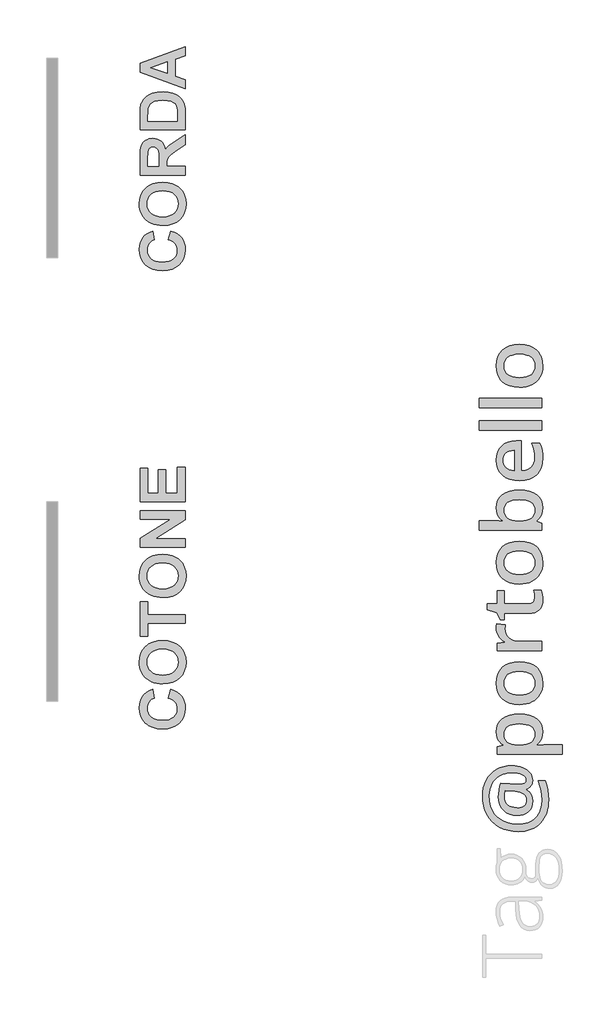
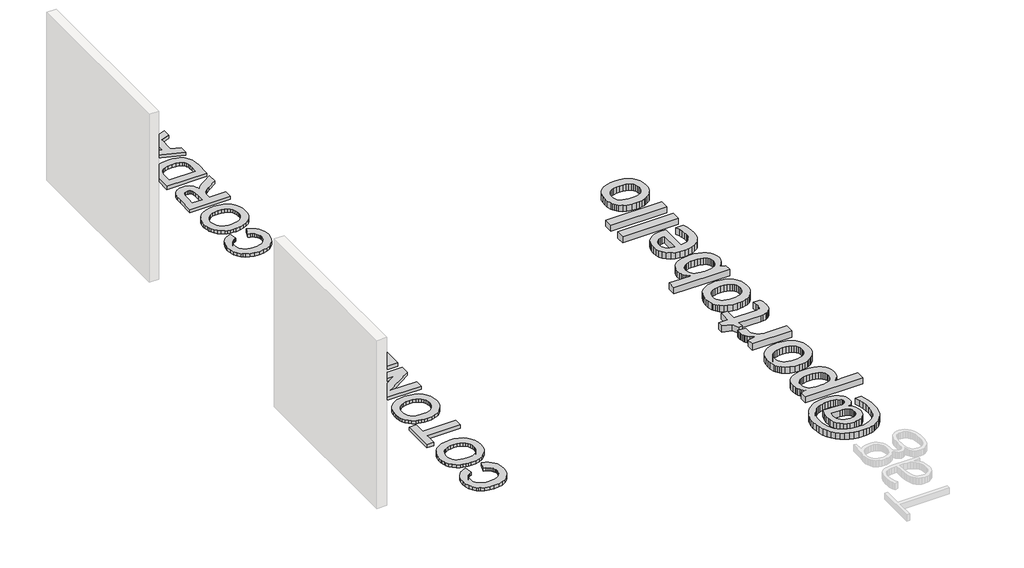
# One storey, part 6 of 9: 3 proxies.
"""IFC4 building model written with IfcOpenShell, lengths in millimetres."""

import ifcopenshell
import ifcopenshell.guid

model = None  # the IFC model being written
_history = None  # IfcOwnerHistory: only IFC2X3 demands one
_inside = {}  # id of a spatial element -> (the spatial element, [elements in it])
_under = {}  # id of a project, library or spatial element -> (it, [spatial elements below it])
_declared = {}  # id of a project -> (the project, [libraries it declares])
_typed = {}  # id of a type object -> (the type object, [elements of that type])
_made_of = {}  # id of a material, layer set ... -> (it, [elements and type objects made of it])


def new_model(schema):
    """Start an empty IFC model of exactly this schema.

    Asked for "IFC4X3", IfcOpenShell would pick the latest addendum, in which some entities
    have other attributes; the version numbers below select the first issue.
    IFC2X3 requires an IfcOwnerHistory on every rooted entity: one is made here for all.
    """
    global model, _history
    if schema == "IFC4X3":
        model = ifcopenshell.file(schema_version=(4, 3, 0, 0))
    else:
        model = ifcopenshell.file(schema=schema)
    _inside.clear()
    _under.clear()
    _declared.clear()
    _typed.clear()
    _made_of.clear()
    _history = None
    if model.schema == "IFC2X3":
        org = make("IfcOrganization", Name="unknown")
        user = make(
            "IfcPersonAndOrganization",
            ThePerson=make("IfcPerson", FamilyName="unknown"),
            TheOrganization=org,
        )
        app = make(
            "IfcApplication",
            ApplicationDeveloper=org,
            Version="unknown",
            ApplicationFullName="unknown",
            ApplicationIdentifier="unknown",
        )
        _history = make(
            "IfcOwnerHistory",
            OwningUser=user,
            OwningApplication=app,
            ChangeAction="ADDED",
            CreationDate=0,
        )
    return model


def make(cls, **values):
    """One entity of the class cls with the attributes given. An attribute that is None is left unset."""
    return model.create_entity(
        cls, **{name: value for name, value in values.items() if value is not None}
    )


def rooted(cls, **values):
    """An entity with a GlobalId (a new one), such as an element, a storey or a relation."""
    return make(cls, GlobalId=ifcopenshell.guid.new(), OwnerHistory=_history, **values)


def si_unit(unit_type, name, prefix=None):
    """IfcSIUnit, for example si_unit("LENGTHUNIT", "METRE", prefix="MILLI")."""
    return make("IfcSIUnit", UnitType=unit_type, Prefix=prefix, Name=name)


def assignment(units):
    """IfcUnitAssignment: the units of a project."""
    return None if units is None else make("IfcUnitAssignment", Units=units)


def point(xyz):
    """IfcCartesianPoint."""
    return None if xyz is None else make("IfcCartesianPoint", Coordinates=xyz)


def direction(xyz):
    """IfcDirection."""
    return None if xyz is None else make("IfcDirection", DirectionRatios=xyz)


def frame(location, z_axis=None, x_axis=None):
    """IfcAxis2Placement3D, a coordinate frame: its origin and axes. An axis left out is left unset."""
    return make(
        "IfcAxis2Placement3D",
        Location=point(location),
        Axis=direction(z_axis),
        RefDirection=direction(x_axis),
    )


def origin():
    """The frame at (0, 0, 0) with its axes left unset."""
    return frame((0.0, 0.0, 0.0))


def origin_with_axes():
    """The frame at (0, 0, 0) with the z axis (0, 0, 1) and the x axis (1, 0, 0) written out."""
    return frame((0.0, 0.0, 0.0), z_axis=(0.0, 0.0, 1.0), x_axis=(1.0, 0.0, 0.0))


def place(relative_to, where):
    """IfcLocalPlacement: puts the frame where relative to a parent placement (None: the world)."""
    return make(
        "IfcLocalPlacement", PlacementRelTo=relative_to, RelativePlacement=where
    )


def context(
    kind, dimensions, precision=None, world=None, true_north=None, identifier=None
):
    """IfcGeometricRepresentationContext, for example the 3D "Model" context."""
    return make(
        "IfcGeometricRepresentationContext",
        ContextIdentifier=identifier,
        ContextType=kind,
        CoordinateSpaceDimension=dimensions,
        Precision=precision,
        WorldCoordinateSystem=world,
        TrueNorth=true_north,
    )


def project(units=None, contexts=None):
    """IfcProject with its units and contexts."""
    return rooted(
        "IfcProject",
        Name="project",
        RepresentationContexts=contexts,
        UnitsInContext=assignment(units),
    )


def spatial(cls, under=None, at=None, **own):
    """A site, building, storey or space (cls), placed at a placement, below another one or the project."""
    s = rooted(cls, ObjectPlacement=at, **own)
    if under is not None:
        _under.setdefault(under.id(), (under, []))[1].append(s)
    return s


def polyline(points):
    """IfcPolyline through the points."""
    return make("IfcPolyline", Points=[point(p) for p in points])


def outline(outer, holes=None, kind="AREA"):
    """IfcArbitraryClosedProfileDef: a profile drawn as a closed curve; with holes, ...WithVoids."""
    if holes is None:
        return make("IfcArbitraryClosedProfileDef", ProfileType=kind, OuterCurve=outer)
    return make(
        "IfcArbitraryProfileDefWithVoids",
        ProfileType=kind,
        OuterCurve=outer,
        InnerCurves=holes,
    )


def extrude(swept, where, along, depth):
    """IfcExtrudedAreaSolid: the profile swept, set in the frame where, extruded along a direction by depth."""
    return make(
        "IfcExtrudedAreaSolid",
        SweptArea=swept,
        Position=where,
        ExtrudedDirection=direction(along),
        Depth=depth,
    )


def shape(context_of_items, identifier, shape_type, items):
    """IfcShapeRepresentation: the items that make up one representation, for example the "Body"."""
    return make(
        "IfcShapeRepresentation",
        ContextOfItems=context_of_items,
        RepresentationIdentifier=identifier,
        RepresentationType=shape_type,
        Items=items,
    )


def made_of(thing, what):
    """Note that an element or type object is made of a material, layer set ...; save() writes the relation."""
    if what is not None:
        _made_of.setdefault(what.id(), (what, []))[1].append(thing)
    return thing


def element(
    cls,
    number,
    at=None,
    inside=None,
    cuts=None,
    type_object=None,
    material=None,
    context=None,
    identifier="Body",
    shape_type=None,
    held_by="IfcProductDefinitionShape",
    body=None,
    shapes=None,
    **own,
):
    """One element of the class cls, such as IfcWall. Its Tag is "e" and its number.

    at: its placement. inside: the storey or other place that contains it. cuts: it is an
    opening in that element (IfcRelVoidsElement). A single representation is given by context,
    identifier, shape_type and body (its items); several are given by shapes. held_by: the class
    of the entity that holds the representations. save() writes the other relations.
    """
    e = rooted(cls, Tag="e%d" % number, ObjectPlacement=at, **own)
    if body is not None:
        shapes = [shape(context, identifier, shape_type, body)]
    if shapes is not None:
        e.Representation = make(held_by, Representations=shapes)
    if inside is not None:
        _inside.setdefault(inside.id(), (inside, []))[1].append(e)
    if cuts is not None:
        rooted(
            "IfcRelVoidsElement", RelatingBuildingElement=cuts, RelatedOpeningElement=e
        )
    if type_object is not None:
        _typed.setdefault(type_object.id(), (type_object, []))[1].append(e)
    return made_of(e, material)


def aggregate(whole, parts):
    """IfcRelAggregates: a whole, such as a stair, and the parts it consists of."""
    return rooted("IfcRelAggregates", RelatingObject=whole, RelatedObjects=parts)


def save(model, path):
    """Write the relations noted so far, then the file.

    IfcRelAggregates (storeys below a building ...), IfcRelContainedInSpatialStructure (elements
    in a storey), IfcRelDefinesByType, IfcRelAssociatesMaterial and IfcRelDeclares: one each for
    every whole, place, type object, material and project.
    """
    for whole, parts in _under.values():
        aggregate(whole, parts)
    for where, things in _inside.values():
        rooted(
            "IfcRelContainedInSpatialStructure",
            RelatedElements=things,
            RelatingStructure=where,
        )
    for kind, things in _typed.values():
        rooted("IfcRelDefinesByType", RelatedObjects=things, RelatingType=kind)
    for what, things in _made_of.values():
        rooted("IfcRelAssociatesMaterial", RelatedObjects=things, RelatingMaterial=what)
    for by, libraries in _declared.values():
        rooted("IfcRelDeclares", RelatingContext=by, RelatedDefinitions=libraries)
    model.write(path)


model = new_model("IFC4")

# Units and contexts
model_context = context("Model", 3, world=origin())
ifc_project = project(units=[si_unit("LENGTHUNIT", "METRE", prefix="MILLI")], contexts=[model_context])

# Site, building, storey
site = spatial("IfcSite", under=ifc_project)
building = spatial("IfcBuilding", under=site)
storey = spatial("IfcBuildingStorey", under=building, Name="PORTOBELLO - SHOWROOM", Elevation=0.0)

# Proxies
placement = place(None, origin())
element("IfcBuildingElementProxy", 1, Name="600mm Arial", ObjectType="600mm Arial", at=placement, inside=storey, context=model_context, shape_type="SweptSolid", body=[
    extrude(outline(polyline([(9479.5828539, -8554.965328), (9518.4498787, -8438.3642537), (9564.552281, -8454.4671202), (9604.3255071, -8475.1436942), (9637.7695571, -8500.3939756), (9664.8844309, -8530.2179646), (9685.840931, -8564.4923038), (9700.8098596, -8603.093636), (9709.7912167, -8646.0219612), (9712.7850025, -8693.2772794), (9707.6704208, -8751.6632177), (9692.3266759, -8804.6024587), (9666.7537678, -8852.0950024), (9630.9516964, -8894.1408488), (9586.2773916, -8928.5480343), (9534.0877831, -8953.1245953), (9474.3828711, -8967.870532), (9407.1626554, -8972.7858442), (9336.2796781, -8967.8278314), (9273.7849943, -8952.953793), (9219.6786039, -8928.163729), (9195.7710187, -8912.0501874), (9173.9605069, -8893.4576394), (9137.6270504, -8850.6669049), (9111.6745814, -8801.6229065), (9096.1031001, -8746.3256441), (9090.9126063, -8684.7751177), (9095.1921542, -8630.9533979), (9108.0307979, -8582.4455291), (9129.4285373, -8539.2515114), (9159.3853726, -8501.3713447), (9181.7889481, -8481.6626507), (9208.6144069, -8464.5919042), (9239.8617488, -8450.1591053), (9275.5309739, -8438.3642537), (9294.9644863, -8554.965328), (9273.6094474, -8562.3145738), (9254.6361525, -8572.8236631), (9238.0446015, -8586.492596), (9223.8347945, -8603.3213725), (9212.4432263, -8622.7216733), (9204.3063919, -8644.1051792), (9199.4242913, -8667.4718903), (9197.7969244, -8692.8218065), (9200.752754, -8727.470962), (9209.620243, -8758.6945813), (9224.3993912, -8786.4926646), (9245.0901987, -8810.8652117), (9272.3948529, -8830.6925184), (9307.0155413, -8844.8548804), (9348.952264, -8853.3522975), (9398.2050208, -8856.1847699), (9450.3376951, -8853.4376987), (9494.3857247, -8845.1964851), (9530.3491094, -8831.461129), (9558.2278493, -8812.2316306), (9579.0847146, -8788.599227), (9593.9824756, -8761.6551555), (9602.9211322, -8731.3994161), (9605.9006844, -8697.8320089), (9603.9981359, -8672.8426755), (9598.2904906, -8649.6467668), (9588.7777483, -8628.2442828), (9575.4599091, -8608.6352235), (9558.0523024, -8591.2465949), (9536.2702577, -8576.5054028), (9510.1137748, -8564.4116472), (9479.5828539, -8554.965328)])), origin_with_axes(), (0.0, 0.0, 1.0), 50.0),
    extrude(outline(polyline([(9410.5027904, -8360.6302042), (9365.6956393, -8358.9126917), (9324.64614, -8353.7601539), (9287.3542925, -8345.1725911), (9253.8200968, -8333.1500031), (9209.5822869, -8308.9150468), (9170.0889868, -8277.2027429), (9137.7693857, -8240.0627197), (9115.0526725, -8199.5446055), (9104.4913935, -8170.3753589), (9096.9476228, -8139.0426158), (9092.4213604, -8105.5463762), (9090.9126063, -8069.8866401), (9096.1458007, -8006.784659), (9111.8453838, -7950.3249917), (9138.0113557, -7900.5076382), (9174.6437163, -7857.3325984), (9196.5977495, -7838.6510909), (9220.5942943, -7822.460451), (9274.7149182, -7797.5517742), (9337.0055881, -7782.6065682), (9407.466304, -7777.6248328), (9477.4478245, -7782.5686121), (9539.3636781, -7797.3999499), (9593.213865, -7822.1188463), (9617.1143334, -7838.1861289), (9638.9983851, -7856.7253012), (9675.531111, -7899.6156703), (9701.6259153, -7949.1863093), (9717.2827978, -8005.4372182), (9722.5017586, -8068.3683969), (9717.3065204, -8131.9638071), (9701.7208055, -8188.689167), (9675.744614, -8238.5444765), (9639.3779459, -8281.5297359), (9593.9018189, -8316.1361908), (9540.5972507, -8340.8550871), (9479.4642411, -8355.6864249), (9410.5027904, -8360.6302042)]), holes=[polyline([(9406.2517095, -8244.0291299), (9454.6741771, -8240.930965), (9496.8528698, -8231.6364702), (9532.7877874, -8216.1456455), (9562.4789301, -8194.4584909), (9585.7270284, -8167.9983595), (9602.332813, -8138.188604), (9612.2962837, -8105.0292246), (9615.6174406, -8068.5202213), (9612.3200062, -8032.049174), (9602.4277032, -7999.0036628), (9585.9405314, -7969.3836878), (9562.8584909, -7943.1892488), (9533.1815818, -7921.7677868), (9496.9098039, -7906.4667425), (9454.0431573, -7897.286116), (9404.5816421, -7894.2259071), (9355.8080807, -7897.2054593), (9313.6388771, -7906.1441159), (9278.0740312, -7921.0418768), (9249.113543, -7941.8987422), (9226.6625224, -7967.6898977), (9210.626079, -7997.3905295), (9201.004213, -8031.0006373), (9197.7969244, -8068.5202213), (9201.0421691, -8106.0777613), (9210.7779034, -8139.8017374), (9227.0041271, -8169.6921495), (9249.7208403, -8195.7489976), (9278.9754881, -8216.8715555), (9314.8155155, -8231.9590969), (9357.2409227, -8241.0116217), (9406.2517095, -8244.0291299)])]), origin_with_axes(), (0.0, 0.0, 1.0), 50.0),
    extrude(outline(polyline([(9712.7850025, -7544.4226843), (9207.5136806, -7544.4226843), (9207.5136806, -7719.3242957), (9100.6293625, -7719.3242957), (9100.6293625, -7252.9199986), (9207.5136806, -7252.9199986), (9207.5136806, -7427.82161), (9712.7850025, -7427.82161), (9712.7850025, -7544.4226843)])), origin_with_axes(), (0.0, 0.0, 1.0), 50.0),
    extrude(outline(polyline([(9410.5027904, -7194.6194614), (9365.6956393, -7192.9019488), (9324.64614, -7187.7494111), (9287.3542925, -7179.1618483), (9253.8200968, -7167.1392603), (9209.5822869, -7142.904304), (9170.0889868, -7111.1920001), (9137.7693857, -7074.0519769), (9115.0526725, -7033.5338627), (9104.4913935, -7004.3646161), (9096.9476228, -6973.031873), (9092.4213604, -6939.5356334), (9090.9126063, -6903.8758973), (9096.1458007, -6840.7739162), (9111.8453838, -6784.3142489), (9138.0113557, -6734.4968953), (9174.6437163, -6691.3218556), (9196.5977495, -6672.6403481), (9220.5942943, -6656.4497082), (9274.7149182, -6631.5410314), (9337.0055881, -6616.5958254), (9407.466304, -6611.61409), (9477.4478245, -6616.5578693), (9539.3636781, -6631.3892071), (9593.213865, -6656.1081035), (9617.1143334, -6672.1753861), (9638.9983851, -6690.7145584), (9675.531111, -6733.6049275), (9701.6259153, -6783.1755665), (9717.2827978, -6839.4264754), (9722.5017586, -6902.3576541), (9717.3065204, -6965.9530643), (9701.7208055, -7022.6784241), (9675.744614, -7072.5337337), (9639.3779459, -7115.5189931), (9593.9018189, -7150.125448), (9540.5972507, -7174.8443443), (9479.4642411, -7189.6756821), (9410.5027904, -7194.6194614)]), holes=[polyline([(9406.2517095, -7078.0183871), (9454.6741771, -7074.9202222), (9496.8528698, -7065.6257274), (9532.7877874, -7050.1349027), (9562.4789301, -7028.4477481), (9585.7270284, -7001.9876167), (9602.332813, -6972.1778612), (9612.2962837, -6939.0184818), (9615.6174406, -6902.5094784), (9612.3200062, -6866.0384312), (9602.4277032, -6832.99292), (9585.9405314, -6803.372945), (9562.8584909, -6777.178506), (9533.1815818, -6755.757044), (9496.9098039, -6740.4559997), (9454.0431573, -6731.2753731), (9404.5816421, -6728.2151643), (9355.8080807, -6731.1947165), (9313.6388771, -6740.1333731), (9278.0740312, -6755.031134), (9249.113543, -6775.8879993), (9226.6625224, -6801.6791549), (9210.626079, -6831.3797867), (9201.004213, -6864.9898945), (9197.7969244, -6902.5094784), (9201.0421691, -6940.0670185), (9210.7779034, -6973.7909946), (9227.0041271, -7003.6814067), (9249.7208403, -7029.7382548), (9278.9754881, -7050.8608127), (9314.8155155, -7065.9483541), (9357.2409227, -7075.0008789), (9406.2517095, -7078.0183871)])]), origin_with_axes(), (0.0, 0.0, 1.0), 50.0),
    extrude(outline(polyline([(9712.7850025, -6514.4465281), (9100.6293625, -6514.4465281), (9100.6293625, -6392.2279542), (9512.6805547, -6135.4930367), (9100.6293625, -6135.4930367), (9100.6293625, -6018.8919624), (9712.7850025, -6018.8919624), (9712.7850025, -6144.9061443), (9306.8067829, -6397.8454538), (9712.7850025, -6397.8454538), (9712.7850025, -6514.4465281)])), origin_with_axes(), (0.0, 0.0, 1.0), 50.0),
    extrude(outline(polyline([(9712.7850025, -5902.2908881), (9100.6293625, -5902.2908881), (9100.6293625, -5445.6033472), (9207.5136806, -5445.6033472), (9207.5136806, -5785.6898139), (9343.5482672, -5785.6898139), (9343.5482672, -5465.0368596), (9450.4325853, -5465.0368596), (9450.4325853, -5785.6898139), (9605.9006844, -5785.6898139), (9605.9006844, -5435.886591), (9712.7850025, -5435.886591), (9712.7850025, -5902.2908881)])), origin_with_axes(), (0.0, 0.0, 1.0), 50.0),
])
element("IfcBuildingElementProxy", 2, Name="600mm Arial", ObjectType="600mm Arial", at=placement, inside=storey, context=model_context, shape_type="SweptSolid", body=[
    extrude(outline(polyline([(9479.5828539, -2354.965328), (9518.4498787, -2238.3642537), (9564.552281, -2254.4671202), (9604.3255071, -2275.1436942), (9637.7695571, -2300.3939756), (9664.8844309, -2330.2179646), (9685.840931, -2364.4923038), (9700.8098596, -2403.093636), (9709.7912167, -2446.0219612), (9712.7850025, -2493.2772794), (9707.6704208, -2551.6632177), (9692.3266759, -2604.6024587), (9666.7537678, -2652.0950024), (9630.9516964, -2694.1408488), (9586.2773916, -2728.5480343), (9534.0877831, -2753.1245953), (9474.3828711, -2767.870532), (9407.1626554, -2772.7858442), (9336.2796781, -2767.8278314), (9273.7849943, -2752.953793), (9219.6786039, -2728.163729), (9195.7710187, -2712.0501874), (9173.9605069, -2693.4576394), (9137.6270504, -2650.6669049), (9111.6745814, -2601.6229065), (9096.1031001, -2546.3256441), (9090.9126063, -2484.7751177), (9095.1921542, -2430.9533979), (9108.0307979, -2382.4455291), (9129.4285373, -2339.2515114), (9159.3853726, -2301.3713447), (9181.7889481, -2281.6626507), (9208.6144069, -2264.5919042), (9239.8617488, -2250.1591053), (9275.5309739, -2238.3642537), (9294.9644863, -2354.965328), (9273.6094474, -2362.3145738), (9254.6361525, -2372.8236631), (9238.0446015, -2386.492596), (9223.8347945, -2403.3213725), (9212.4432263, -2422.7216733), (9204.3063919, -2444.1051792), (9199.4242913, -2467.4718903), (9197.7969244, -2492.8218065), (9200.752754, -2527.470962), (9209.620243, -2558.6945813), (9224.3993912, -2586.4926646), (9245.0901987, -2610.8652117), (9272.3948529, -2630.6925184), (9307.0155413, -2644.8548804), (9348.952264, -2653.3522975), (9398.2050208, -2656.1847699), (9450.3376951, -2653.4376987), (9494.3857247, -2645.1964851), (9530.3491094, -2631.461129), (9558.2278493, -2612.2316306), (9579.0847146, -2588.599227), (9593.9824756, -2561.6551555), (9602.9211322, -2531.3994161), (9605.9006844, -2497.8320089), (9603.9981359, -2472.8426755), (9598.2904906, -2449.6467668), (9588.7777483, -2428.2442828), (9575.4599091, -2408.6352235), (9558.0523024, -2391.2465949), (9536.2702577, -2376.5054028), (9510.1137748, -2364.4116472), (9479.5828539, -2354.965328)])), origin_with_axes(), (0.0, 0.0, 1.0), 50.0),
    extrude(outline(polyline([(9410.5027904, -2160.6302042), (9365.6956393, -2158.9126917), (9324.64614, -2153.7601539), (9287.3542925, -2145.1725911), (9253.8200968, -2133.1500031), (9209.5822869, -2108.9150468), (9170.0889868, -2077.2027429), (9137.7693857, -2040.0627197), (9115.0526725, -1999.5446055), (9104.4913935, -1970.3753589), (9096.9476228, -1939.0426158), (9092.4213604, -1905.5463762), (9090.9126063, -1869.8866401), (9096.1458007, -1806.784659), (9111.8453838, -1750.3249917), (9138.0113557, -1700.5076382), (9174.6437163, -1657.3325984), (9196.5977495, -1638.6510909), (9220.5942943, -1622.460451), (9274.7149182, -1597.5517742), (9337.0055881, -1582.6065682), (9407.466304, -1577.6248328), (9477.4478245, -1582.5686121), (9539.3636781, -1597.3999499), (9593.213865, -1622.1188463), (9617.1143334, -1638.1861289), (9638.9983851, -1656.7253012), (9675.531111, -1699.6156703), (9701.6259153, -1749.1863093), (9717.2827978, -1805.4372182), (9722.5017586, -1868.3683969), (9717.3065204, -1931.9638071), (9701.7208055, -1988.689167), (9675.744614, -2038.5444765), (9639.3779459, -2081.5297359), (9593.9018189, -2116.1361908), (9540.5972507, -2140.8550871), (9479.4642411, -2155.6864249), (9410.5027904, -2160.6302042)]), holes=[polyline([(9406.2517095, -2044.0291299), (9454.6741771, -2040.930965), (9496.8528698, -2031.6364702), (9532.7877874, -2016.1456455), (9562.4789301, -1994.4584909), (9585.7270284, -1967.9983595), (9602.332813, -1938.188604), (9612.2962837, -1905.0292246), (9615.6174406, -1868.5202213), (9612.3200062, -1832.049174), (9602.4277032, -1799.0036628), (9585.9405314, -1769.3836878), (9562.8584909, -1743.1892488), (9533.1815818, -1721.7677868), (9496.9098039, -1706.4667425), (9454.0431573, -1697.286116), (9404.5816421, -1694.2259071), (9355.8080807, -1697.2054593), (9313.6388771, -1706.1441159), (9278.0740312, -1721.0418768), (9249.113543, -1741.8987422), (9226.6625224, -1767.6898977), (9210.626079, -1797.3905295), (9201.004213, -1831.0006373), (9197.7969244, -1868.5202213), (9201.0421691, -1906.0777613), (9210.7779034, -1939.8017374), (9227.0041271, -1969.6921495), (9249.7208403, -1995.7489976), (9278.9754881, -2016.8715555), (9314.8155155, -2031.9590969), (9357.2409227, -2041.0116217), (9406.2517095, -2044.0291299)])]), origin_with_axes(), (0.0, 0.0, 1.0), 50.0),
    extrude(outline(polyline([(9712.7850025, -1480.4572709), (9100.6293625, -1480.4572709), (9100.6293625, -1222.9632319), (9104.7665751, -1139.0802976), (9109.9380908, -1107.1023011), (9117.1782129, -1081.7666185), (9127.0657714, -1060.852819), (9140.1795967, -1042.1404722), (9156.5196886, -1025.6295778), (9176.0860473, -1011.3201361), (9198.0341499, -999.7625101), (9221.5194737, -991.5070629), (9246.5420187, -986.5537947), (9273.1017849, -984.9027052), (9306.2089746, -987.2891937), (9336.2986562, -994.4486591), (9363.3708294, -1006.3811014), (9387.4254944, -1023.0865206), (9407.8838209, -1044.5459387), (9424.1669787, -1070.7403776), (9436.2749679, -1101.6698373), (9444.2077884, -1137.334318), (9468.575591, -1103.5154517), (9495.2207584, -1076.1491188), (9533.8220906, -1047.833884), (9594.0583878, -1011.1683118), (9712.7850025, -936.3189243), (9712.7850025, -1072.5053352), (9572.9548079, -1161.1707355), (9519.2659344, -1204.0041705), (9489.9828195, -1230.7821841), (9475.5784876, -1250.1018283), (9466.5259628, -1270.5601548), (9461.7434968, -1297.7177292), (9460.1493415, -1337.1351171), (9460.1493415, -1363.8561966), (9712.7850025, -1363.8561966), (9712.7850025, -1480.4572709)]), holes=[polyline([(9353.2650234, -1363.8561966), (9353.2650234, -1267.7514049), (9351.5000658, -1191.8961813), (9346.2051928, -1151.0744185), (9336.6023048, -1130.3124434), (9321.9133023, -1114.6365828), (9302.536724, -1104.7869803), (9278.8711088, -1101.5037795), (9252.6624364, -1105.8307725), (9232.0333075, -1118.8117515), (9217.4771513, -1139.6875948), (9209.4873967, -1167.699181), (9207.5136806, -1262.4375539), (9207.5136806, -1363.8561966), (9353.2650234, -1363.8561966)])]), origin_with_axes(), (0.0, 0.0, 1.0), 50.0),
    extrude(outline(polyline([(9100.6293625, -868.3016309), (9100.6293625, -641.6279279), (9103.5519806, -574.0661076), (9112.3198348, -524.723205), (9121.823088, -498.6663569), (9134.3912946, -474.5452688), (9150.0244546, -452.3599407), (9168.722568, -432.1103726), (9190.0918404, -413.9816004), (9213.7384775, -398.1586601), (9267.863846, -373.4302747), (9298.916663, -364.6292089), (9333.3950161, -358.3427333), (9412.6283308, -353.3135529), (9482.9229888, -358.0201066), (9542.8935934, -372.139768), (9574.7007875, -384.9119885), (9603.319671, -400.1513542), (9628.7502438, -417.857865), (9650.9925061, -438.0315209), (9678.852268, -475.9116876), (9699.8799356, -525.178678), (9709.5587358, -573.1172056), (9712.7850025, -634.9476581), (9712.7850025, -868.3016309), (9100.6293625, -868.3016309)]), holes=[polyline([(9207.5136806, -751.7005567), (9605.9006844, -751.7005567), (9605.9006844, -652.4074543), (9604.4583534, -604.4309707), (9600.1313604, -571.9405671), (9590.2438018, -542.3538037), (9575.1562605, -518.2706716), (9551.7942939, -498.8940934), (9517.0834598, -483.4269912), (9469.3347126, -473.2927182), (9406.8590068, -469.9146271), (9345.2562908, -473.2927182), (9299.8228644, -483.4269912), (9266.5733393, -499.6152589), (9241.5223272, -521.1553336), (9223.9866188, -548.6545128), (9213.2830046, -582.7200935), (9208.9560116, -623.9783513), (9207.5136806, -691.8817764), (9207.5136806, -751.7005567)])]), origin_with_axes(), (0.0, 0.0, 1.0), 50.0),
    extrude(outline(polyline([(9712.7850025, 258.8420871), (9712.7850025, 136.3198645), (9576.7504158, 88.3433808), (9576.7504158, -142.8850516), (9712.7850025, -190.2542381), (9712.7850025, -314.4465281), (9100.6293625, -90.9611357), (9100.6293625, 33.2311543), (9712.7850025, 258.8420871)]), holes=[polyline([(9469.8660977, 50.9945992), (9246.3807053, -27.8022205), (9469.8660977, -105.53627), (9469.8660977, 50.9945992)])]), origin_with_axes(), (0.0, 0.0, 1.0), 50.0),
])
element("IfcBuildingElementProxy", 3, Name="80mm OpenSans Bold", ObjectType="80mm OpenSans Bold", at=placement, inside=storey, context=model_context, shape_type="SweptSolid", body=[
    extrude(outline(polyline([(14132.1934036, -9469.9050274), (14170.2990183, -9471.4523873), (14206.7370898, -9476.0944669), (14241.5076182, -9483.8312662), (14274.6106034, -9494.6627853), (14305.0920905, -9508.3035888), (14331.9981248, -9524.4682415), (14355.3287061, -9543.1567432), (14375.0838346, -9564.369094), (14390.8053113, -9587.7146983), (14402.0349376, -9612.8029603), (14408.7727133, -9639.63388), (14411.0186386, -9668.2074574), (14405.3099322, -9708.8294097), (14398.1740493, -9726.9770867), (14388.1838133, -9743.6825641), (14375.7598656, -9758.3599485), (14361.3228478, -9770.4233463), (14344.8727598, -9779.8727576), (14326.4096017, -9786.7081822), (14326.4096017, -9793.4384465), (14363.4260554, -9823.6044526), (14389.8663794, -9860.2603563), (14405.7305738, -9902.6249663), (14411.0186386, -9949.9170913), (14407.46572, -9992.5821596), (14396.8069644, -10030.4398962), (14379.0423717, -10063.4903012), (14354.171942, -10091.7333746), (14323.232256, -10114.3428562), (14287.2598947, -10130.4924859), (14246.2548582, -10140.1822637), (14200.2171463, -10143.4121897), (14147.0735973, -10139.1306599), (14099.1730445, -10126.2860707), (14056.5154876, -10104.878422), (14019.1009269, -10074.9077139), (13988.656997, -10037.7260082), (13966.9113328, -9994.6853672), (13953.8639343, -9945.7857907), (13949.5148014, -9891.0272788), (13951.3475966, -9846.7096902), (13956.8459822, -9797.8852283), (13965.5893166, -9749.6616828), (13977.1569584, -9707.1468437), (14228.3400364, -9719.4055393), (14241.0794652, -9719.4055393), (14278.9372018, -9715.8000406), (14305.9784423, -9704.9835444), (14315.4428765, -9696.8711723), (14322.2031866, -9686.9560508), (14327.6114347, -9661.7175597), (14324.1486536, -9640.9634076), (14313.7603104, -9622.4476694), (14296.446405, -9606.1703449), (14272.2069375, -9592.1314342), (14242.6042907, -9580.8266934), (14209.2008473, -9572.7518786), (14171.9966073, -9567.9069897), (14130.9915707, -9566.2920267), (14085.9003023, -9568.7107154), (14043.648364, -9575.9667816), (14004.2357561, -9588.0602253), (13967.6624784, -9604.9910464), (13934.5219359, -9626.3836722), (13905.4075337, -9651.8625298), (13880.3192717, -9681.4276194), (13859.25715, -9715.0789409), (13842.5892298, -9752.0803715), (13830.6835725, -9791.6957888), (13823.5401782, -9833.9251927), (13821.1590467, -9878.7685831), (13824.1486061, -9935.7429744), (13833.1172842, -9988.8865234), (13848.065081, -10038.1992299), (13868.9919965, -10083.6810941), (13895.4698778, -10124.6711078), (13927.0705719, -10160.5082628), (13963.7940787, -10191.1925593), (14005.6403983, -10216.7239971), (14051.8283393, -10236.8096296), (14101.5767103, -10251.15651), (14154.8855112, -10259.7646382), (14211.7547422, -10262.6340143), (14285.9303671, -10257.2783464), (14351.0171306, -10241.2113427), (14380.1521893, -10229.1610899), (14407.0150327, -10214.4330032), (14431.6056607, -10197.0270825), (14453.9240734, -10176.9433278), (14473.7824844, -10154.3582585), (14490.9931072, -10129.4483936), (14505.5559419, -10102.2137331), (14517.4709885, -10072.6542772), (14533.3577172, -10006.5609786), (14538.6532935, -9931.1684979), (14535.5585738, -9869.454378), (14526.2744145, -9806.418242), (14510.8008158, -9742.0600897), (14489.1377776, -9676.3799212), (14579.2752458, -9676.3799212), (14599.8866802, -9735.6002378), (14614.6091334, -9797.4044951), (14623.4426052, -9861.7926932), (14626.3870959, -9928.7648321), (14624.6913848, -9978.3798747), (14619.6042514, -10025.1893887), (14611.1256958, -10069.1933739), (14599.2557179, -10110.3918305), (14583.9943179, -10148.7847584), (14565.3414955, -10184.3721575), (14543.297251, -10217.154028), (14517.8615842, -10247.1303697), (14489.3912893, -10273.9180986), (14458.2431604, -10297.1341302), (14424.4171976, -10316.7784647), (14387.9134009, -10332.851102), (14348.7317702, -10345.3520421), (14306.8723055, -10354.281285), (14262.3350069, -10359.6388308), (14215.1198744, -10361.4246794), (14146.0520394, -10357.5637912), (14080.9051842, -10345.9811265), (14019.679309, -10326.6766854), (13962.3744136, -10299.6504679), (13910.274957, -10265.7738027), (13864.6653981, -10225.9180189), (13825.5457369, -10180.0831163), (13792.9159734, -10128.269095), (13767.2042606, -10071.6477421), (13748.8387514, -10011.3908446), (13737.8194459, -9947.4984026), (13734.1463441, -9879.970416), (13737.211018, -9821.749123), (13746.4050398, -9766.7878018), (13761.7284094, -9715.0864523), (13783.1811268, -9666.6450746), (13810.2974818, -9622.4626923), (13842.6117642, -9583.5383289), (13880.1239738, -9549.8719846), (13922.8341109, -9521.4636592), (13969.9008922, -9498.9067578), (14020.4830347, -9482.7946853), (14074.5805385, -9473.1274419), (14132.1934036, -9469.9050274)]), holes=[polyline([(14202.1400789, -10038.1316268), (14231.5474279, -10036.542954), (14257.0337971, -10031.7769353), (14278.5991863, -10023.8335709), (14296.2435957, -10012.7128608), (14309.9670253, -9998.4148049), (14319.7694749, -9980.9394033), (14325.6509447, -9960.2866559), (14327.6114347, -9936.4565627), (14325.1476772, -9911.1730029), (14317.7564048, -9888.9240712), (14305.4376175, -9869.7097675), (14288.1913152, -9853.530092), (14266.0174981, -9840.3850445), (14238.916166, -9830.2746252), (14206.8873189, -9823.1988339), (14169.930957, -9819.1576708), (14041.3348357, -9812.4274065), (14034.4843881, -9848.7227604), (14032.2009056, -9887.42178), (14035.0627702, -9921.0355442), (14043.648364, -9950.7283285), (14057.9576871, -9976.500133), (14077.9907394, -9998.3509575), (14102.9212608, -10015.7550004), (14131.9229912, -10028.1864595), (14164.9959306, -10035.645335), (14202.1400789, -10038.1316268)])]), origin_with_axes(), (0.0, 0.0, 1.0), 100.0),
    extrude(outline(polyline([(14549.4697897, -9011.2855893), (14544.2718624, -9064.8422683), (14528.6780804, -9112.0592787), (14502.6884437, -9152.9366205), (14466.3029524, -9187.4742937), (14466.3029524, -9195.1660244), (14560.2862859, -9187.4742937), (14810.9886307, -9187.4742937), (14810.9886307, -9316.3107816), (13934.1313402, -9316.3107816), (13934.1313402, -9211.9916851), (14011.289013, -9193.9641914), (14011.289013, -9187.4742937), (13989.5996847, -9171.6439009), (13970.8022668, -9153.9581785), (13954.8967594, -9134.4171265), (13941.8831625, -9113.020745), (13931.7614759, -9089.769034), (13924.5316998, -9064.6619933), (13918.747879, -9008.8819234), (13923.908249, -8956.07639), (13939.3893592, -8909.4302502), (13965.1912094, -8868.9435041), (14001.3137998, -8834.6161516), (14046.7505952, -8807.2744529), (14100.4950607, -8787.7446682), (14162.547196, -8776.0267973), (14232.9070014, -8772.1208403), (14303.4395703, -8776.0944004), (14365.7696295, -8788.0150806), (14419.8971792, -8807.8828808), (14465.8222192, -8835.6978012), (14502.4180313, -8870.5133983), (14528.5578971, -8911.3832287), (14544.2418165, -8958.3072923), (14549.4697897, -9011.2855893)]), holes=[polyline([(14026.4321076, -9042.7736115), (14029.2263691, -9077.859621), (14037.6091537, -9107.8829093), (14051.5804612, -9132.8434766), (14071.1402918, -9152.7413227), (14096.8294703, -9167.9369975), (14129.1888214, -9178.791051), (14168.2183451, -9185.303483), (14213.9180415, -9187.4742937), (14232.9070014, -9187.4742937), (14284.2553125, -9185.3260174), (14327.9719845, -9178.8811884), (14364.0570176, -9168.1398068), (14392.5104118, -9153.1018725), (14414.0682896, -9133.1814921), (14429.4667737, -9107.7927719), (14438.7058642, -9076.9357119), (14441.785561, -9040.6103122), (14438.3753601, -9009.6856492), (14428.1447575, -8982.5317369), (14411.0937531, -8959.1485754), (14387.222347, -8939.5361646), (14357.0563409, -8924.0250086), (14321.1215369, -8912.9456115), (14279.417935, -8906.2979732), (14231.9455351, -8904.0820938), (14184.3153946, -8906.2829503), (14142.8596707, -8912.8855198), (14107.5783634, -8923.8898024), (14078.4714726, -8939.295798), (14055.7042504, -8958.9683004), (14039.4419489, -8982.7721035), (14029.6845679, -9010.7072072), (14026.4321076, -9042.7736115)])]), origin_with_axes(), (0.0, 0.0, 1.0), 100.0),
    extrude(outline(polyline([(14232.9070014, -8064.0008903), (14303.4395703, -8068.8082219), (14365.7696295, -8083.2302168), (14419.8971792, -8107.266875), (14465.8222192, -8140.9181964), (14485.4271185, -8161.0902107), (14502.4180313, -8183.1476003), (14516.7949575, -8207.0903653), (14528.5578971, -8232.9185056), (14544.2418165, -8290.2309125), (14549.4697897, -8355.0848209), (14547.0586124, -8396.7358426), (14539.8250806, -8435.8780382), (14527.7691942, -8472.5114075), (14510.8909533, -8506.6359507), (14489.5133504, -8537.6131939), (14463.9593782, -8564.8046635), (14434.2290366, -8588.2103594), (14400.3223257, -8607.8302817), (14362.8626962, -8623.3414376), (14322.473599, -8634.4208348), (14279.1550341, -8641.068473), (14232.9070014, -8643.2843525), (14162.9377917, -8638.5145781), (14101.0959771, -8624.205255), (14047.3815575, -8600.3563833), (14001.794533, -8566.9679627), (13982.3304735, -8546.9104982), (13965.4616219, -8524.8962995), (13951.1879782, -8500.9253665), (13939.5095425, -8474.9976994), (13923.9382948, -8417.2721625), (13918.747879, -8351.7196887), (13924.0659896, -8288.8262703), (13940.0203215, -8232.8283682), (13966.6108746, -8183.7259824), (14003.8376489, -8141.5191129), (14050.0631472, -8107.6048905), (14103.649872, -8083.3804459), (14164.5978234, -8068.8457792), (14232.9070014, -8064.0008903)]), holes=[polyline([(14232.9070014, -8510.6019993), (14281.8629138, -8508.1382418), (14324.2913712, -8500.7469694), (14360.1923737, -8488.4281821), (14389.5659211, -8471.1818799), (14412.4120136, -8449.0080627), (14428.7306511, -8421.9067306), (14438.5218335, -8389.8778836), (14441.785561, -8352.9215216), (14438.5218335, -8316.3031752), (14428.7306511, -8284.5672749), (14412.4120136, -8257.7138209), (14389.5659211, -8235.742813), (14360.1923737, -8218.6542513), (14324.2913712, -8206.4481358), (14281.8629138, -8199.1244665), (14232.9070014, -8196.6832434), (14184.5144482, -8199.1394894), (14142.5742354, -8206.5082275), (14107.086363, -8218.7894575), (14078.0508311, -8235.9831796), (14055.4676396, -8258.0893936), (14039.3367885, -8285.1080997), (14029.6582778, -8317.0392978), (14026.4321076, -8353.882988), (14029.7671939, -8392.2740379), (14039.7724529, -8425.0014503), (14056.4478845, -8452.0652252), (14079.7934888, -8473.4653624), (14109.3736013, -8489.7126411), (14144.7525575, -8501.3178401), (14185.9303576, -8508.2809595), (14232.9070014, -8510.6019993)])]), origin_with_axes(), (0.0, 0.0, 1.0), 100.0),
    extrude(outline(polyline([(13918.747879, -7613.3135493), (13920.1299868, -7578.6406699), (13924.2763103, -7550.5778715), (14044.4596013, -7562.8365671), (14039.411903, -7590.2383575), (14037.729337, -7618.6016141), (14040.8691254, -7654.6566014), (14050.2884909, -7687.10609), (14065.9874332, -7715.9500798), (14087.9659526, -7741.1885709), (14114.9621243, -7761.6948449), (14145.7140239, -7776.3421835), (14180.2216513, -7785.1305866), (14218.4850065, -7788.0600543), (14534.0863285, -7788.0600543), (14534.0863285, -7916.8965422), (13934.1313402, -7916.8965422), (13934.1313402, -7815.9425778), (14036.2871375, -7798.8765505), (14036.2871375, -7792.3866528), (14010.6430278, -7776.5900615), (13987.7931796, -7758.5250106), (13967.7375929, -7738.1915), (13950.4762678, -7715.5895299), (13936.5950977, -7691.3951311), (13926.6799762, -7666.2843348), (13920.7309033, -7640.2571409), (13918.747879, -7613.3135493)])), origin_with_axes(), (0.0, 0.0, 1.0), 100.0),
    extrude(outline(polyline([(14441.785561, -7194.3545972), (14438.1199707, -7146.4615558), (14427.1231995, -7098.4483311), (14526.875331, -7098.4483311), (14535.7088029, -7123.206089), (14542.979892, -7154.213378), (14547.8473153, -7188.9463491), (14549.4697897, -7224.8811531), (14546.4351616, -7268.2598097), (14537.3312773, -7305.8546453), (14522.1581368, -7337.6656602), (14500.9157402, -7363.6928541), (14473.6040873, -7383.9362272), (14440.2231782, -7398.3957794), (14400.773013, -7407.0715107), (14355.2535916, -7409.9634211), (14026.4321076, -7409.9634211), (14026.4321076, -7493.6109916), (13972.3496267, -7493.6109916), (13927.6414425, -7403.9542566), (13795.6801891, -7359.9671721), (13795.6801891, -7280.4058335), (13934.1313402, -7280.4058335), (13934.1313402, -7104.6978622), (14026.4321076, -7104.6978622), (14026.4321076, -7280.4058335), (14350.9269931, -7280.4058335), (14372.6125657, -7278.9260767), (14391.278533, -7274.4868064), (14406.9248952, -7267.0880226), (14419.5516522, -7256.7297252), (14429.2789873, -7243.9527391), (14436.2270838, -7229.297889), (14441.785561, -7194.3545972)])), origin_with_axes(), (0.0, 0.0, 1.0), 100.0),
    extrude(outline(polyline([(14232.9070014, -6433.3539991), (14303.4395703, -6438.1613308), (14365.7696295, -6452.5833257), (14419.8971792, -6476.6199839), (14465.8222192, -6510.2713053), (14485.4271185, -6530.4433195), (14502.4180313, -6552.5007092), (14516.7949575, -6576.4434741), (14528.5578971, -6602.2716145), (14544.2418165, -6659.5840214), (14549.4697897, -6724.4379297), (14547.0586124, -6766.0889515), (14539.8250806, -6805.231147), (14527.7691942, -6841.8645164), (14510.8909533, -6875.9890596), (14489.5133504, -6906.9663028), (14463.9593782, -6934.1577724), (14434.2290366, -6957.5634683), (14400.3223257, -6977.1833905), (14362.8626962, -6992.6945465), (14322.473599, -7003.7739436), (14279.1550341, -7010.4215819), (14232.9070014, -7012.6374613), (14162.9377917, -7007.867687), (14101.0959771, -6993.5583639), (14047.3815575, -6969.7094921), (14001.794533, -6936.3210716), (13982.3304735, -6916.2636071), (13965.4616219, -6894.2494083), (13951.1879782, -6870.2784754), (13939.5095425, -6844.3508082), (13923.9382948, -6786.6252713), (13918.747879, -6721.0727976), (13924.0659896, -6658.1793792), (13940.0203215, -6602.181477), (13966.6108746, -6553.0790912), (14003.8376489, -6510.8722218), (14050.0631472, -6476.9579994), (14103.649872, -6452.7335548), (14164.5978234, -6438.198888), (14232.9070014, -6433.3539991)]), holes=[polyline([(14232.9070014, -6879.9551082), (14281.8629138, -6877.4913507), (14324.2913712, -6870.1000783), (14360.1923737, -6857.781291), (14389.5659211, -6840.5349887), (14412.4120136, -6818.3611716), (14428.7306511, -6791.2598395), (14438.5218335, -6759.2309924), (14441.785561, -6722.2746305), (14438.5218335, -6685.656284), (14428.7306511, -6653.9203838), (14412.4120136, -6627.0669297), (14389.5659211, -6605.0959218), (14360.1923737, -6588.0073602), (14324.2913712, -6575.8012447), (14281.8629138, -6568.4775754), (14232.9070014, -6566.0363523), (14184.5144482, -6568.4925983), (14142.5742354, -6575.8613363), (14107.086363, -6588.1425664), (14078.0508311, -6605.3362884), (14055.4676396, -6627.4425025), (14039.3367885, -6654.4612086), (14029.6582778, -6686.3924067), (14026.4321076, -6723.2360968), (14029.7671939, -6761.6271468), (14039.7724529, -6794.3545592), (14056.4478845, -6821.418334), (14079.7934888, -6842.8184713), (14109.3736013, -6859.0657499), (14144.7525575, -6870.6709489), (14185.9303576, -6877.6340684), (14232.9070014, -6879.9551082)])]), origin_with_axes(), (0.0, 0.0, 1.0), 100.0),
    extrude(outline(polyline([(13918.747879, -5978.3400597), (13923.908249, -5925.5345263), (13939.3893592, -5878.8883865), (13965.1912094, -5838.4016404), (14001.3137998, -5804.0742879), (14046.7505952, -5776.7325892), (14100.4950607, -5757.2028044), (14162.547196, -5745.4849336), (14232.9070014, -5741.5789766), (14303.6348681, -5745.5300023), (14366.0700878, -5757.3830794), (14420.2126603, -5777.1382078), (14466.0625858, -5804.7953876), (14502.5532375, -5839.48329), (14528.6179887, -5880.330586), (14544.2568394, -5927.3372756), (14549.4697897, -5980.503359), (14544.2718624, -6034.1651984), (14528.6780804, -6081.4573233), (14502.6884437, -6122.3797339), (14466.3029524, -6156.93243), (14466.3029524, -6165.585627), (14534.0863285, -6189.141552), (14534.0863285, -6285.7689179), (13687.9959604, -6285.7689179), (13687.9959604, -6156.93243), (13887.9809565, -6156.93243), (13953.9615832, -6159.0957293), (14009.6064469, -6162.2204948), (14009.6064469, -6156.93243), (13988.31147, -6140.8917164), (13969.8558234, -6123.0557649), (13954.2395071, -6103.4245755), (13941.4625209, -6081.9981481), (13931.5248651, -6058.7764829), (13924.4265395, -6033.7595797), (13918.747879, -5978.3400597)]), holes=[polyline([(14026.4321076, -6012.2317478), (14029.2789493, -6047.775956), (14037.8194744, -6077.9720079), (14052.053683, -6102.8199033), (14071.9815749, -6122.3196422), (14098.5796395, -6137.102187), (14132.8243659, -6147.7984999), (14174.7157542, -6154.4085809), (14224.2538045, -6156.93243), (14232.9070014, -6156.93243), (14284.2553125, -6154.7841537), (14327.9719845, -6148.3393247), (14364.0570176, -6137.5979431), (14392.5104118, -6122.5600088), (14414.0682896, -6102.6396284), (14429.4667737, -6077.2509081), (14438.7058642, -6046.3938482), (14441.785561, -6010.0684485), (14438.4129174, -5978.5578919), (14428.2949866, -5951.0884985), (14411.4317686, -5927.6602682), (14387.8232634, -5908.2732011), (14357.8450438, -5893.0775263), (14321.8726825, -5882.2234728), (14279.9061796, -5875.7110407), (14231.9455351, -5873.54023), (14183.7783255, -5875.707285), (14142.0334106, -5882.2084499), (14106.7107902, -5893.0437247), (14077.8104645, -5908.2131095), (14055.3324334, -5927.7166042), (14039.2766968, -5951.5542088), (14029.6432549, -5979.7259233), (14026.4321076, -6012.2317478)])]), origin_with_axes(), (0.0, 0.0, 1.0), 100.0),
    extrude(outline(polyline([(14549.4697897, -5312.7649946), (14544.2943967, -5379.5793929), (14528.7682178, -5438.6870377), (14517.1235837, -5465.3508275), (14502.891253, -5490.0879289), (14486.0712259, -5512.898342), (14466.6635022, -5533.7820666), (14421.3468901, -5568.6427324), (14368.2033412, -5593.543208), (14307.2328554, -5608.4834934), (14238.4354328, -5613.4635885), (14167.9028639, -5608.8440433), (14105.3324381, -5594.9854075), (14050.7241553, -5571.8876813), (14004.0780155, -5539.5508646), (13966.7460808, -5499.1317216), (13940.0804131, -5451.7870164), (13924.0810125, -5397.5167491), (13918.747879, -5336.3209197), (13923.2397295, -5279.6019178), (13936.715281, -5229.14747), (13959.1745334, -5184.9575762), (13990.6174869, -5147.0322365), (14029.932446, -5116.5883066), (14076.0077151, -5094.8426424), (14128.8432944, -5081.7952439), (14188.4391838, -5077.446111), (14257.1840262, -5077.446111), (14257.1840262, -5480.7812353), (14299.082926, -5476.8151867), (14335.8439901, -5467.5610733), (14367.4672185, -5453.0188951), (14393.9526112, -5433.1886521), (14414.8795268, -5408.4308942), (14429.8273236, -5379.1061712), (14438.7960017, -5345.2144832), (14441.785561, -5306.7558301), (14439.2617119, -5254.9868775), (14431.6901646, -5206.8835153), (14418.229636, -5158.9003364), (14398.0388431, -5107.4919338), (14505.9634384, -5107.4919338), (14526.2744145, -5154.8741962), (14539.6147598, -5202.7972834), (14547.0060322, -5254.3859611), (14549.4697897, -5312.7649946)]), holes=[polyline([(14011.0486464, -5336.5612862), (14013.5048924, -5365.5780395), (14020.8736304, -5391.5751877), (14033.1548605, -5414.5527306), (14050.3485825, -5434.5106683), (14072.2444758, -5451.1034739), (14098.6322196, -5463.9856204), (14129.511814, -5473.1571078), (14164.8832588, -5478.6179361), (14164.8832588, -5204.1192996), (14129.3165161, -5206.8309351), (14098.3317614, -5213.7640087), (14071.9289947, -5224.9185204), (14050.1082159, -5240.2944702), (14033.0196543, -5259.4261478), (14020.8135388, -5281.847843), (14013.4898695, -5307.5595558), (14011.0486464, -5336.5612862)])]), origin_with_axes(), (0.0, 0.0, 1.0), 100.0),
    extrude(outline(polyline([(14534.0863285, -4803.6685743), (14534.0863285, -4932.5050622), (13687.9959604, -4932.5050622), (13687.9959604, -4803.6685743), (14534.0863285, -4803.6685743)])), origin_with_axes(), (0.0, 0.0, 1.0), 100.0),
    extrude(outline(polyline([(14534.0863285, -4495.9993496), (14534.0863285, -4624.8358374), (13687.9959604, -4624.8358374), (13687.9959604, -4495.9993496), (14534.0863285, -4495.9993496)])), origin_with_axes(), (0.0, 0.0, 1.0), 100.0),
    extrude(outline(polyline([(14232.9070014, -3772.0152051), (14303.4395703, -3776.8225367), (14365.7696295, -3791.2445316), (14419.8971792, -3815.2811898), (14465.8222192, -3848.9325113), (14485.4271185, -3869.1045255), (14502.4180313, -3891.1619151), (14516.7949575, -3915.1046801), (14528.5578971, -3940.9328205), (14544.2418165, -3998.2452273), (14549.4697897, -4063.0991357), (14547.0586124, -4104.7501575), (14539.8250806, -4143.892353), (14527.7691942, -4180.5257224), (14510.8909533, -4214.6502655), (14489.5133504, -4245.6275088), (14463.9593782, -4272.8189783), (14434.2290366, -4296.2246743), (14400.3223257, -4315.8445965), (14362.8626962, -4331.3557525), (14322.473599, -4342.4351496), (14279.1550341, -4349.0827879), (14232.9070014, -4351.2986673), (14162.9377917, -4346.528893), (14101.0959771, -4332.2195699), (14047.3815575, -4308.3706981), (14001.794533, -4274.9822776), (13982.3304735, -4254.924813), (13965.4616219, -4232.9106143), (13951.1879782, -4208.9396814), (13939.5095425, -4183.0120142), (13923.9382948, -4125.2864773), (13918.747879, -4059.7340036), (13924.0659896, -3996.8405851), (13940.0203215, -3940.842683), (13966.6108746, -3891.7402972), (14003.8376489, -3849.5334277), (14050.0631472, -3815.6192053), (14103.649872, -3791.3947608), (14164.5978234, -3776.860094), (14232.9070014, -3772.0152051)]), holes=[polyline([(14232.9070014, -4218.6163141), (14281.8629138, -4216.1525567), (14324.2913712, -4208.7612843), (14360.1923737, -4196.442497), (14389.5659211, -4179.1961947), (14412.4120136, -4157.0223775), (14428.7306511, -4129.9210454), (14438.5218335, -4097.8921984), (14441.785561, -4060.9358365), (14438.5218335, -4024.31749), (14428.7306511, -3992.5815898), (14412.4120136, -3965.7281357), (14389.5659211, -3943.7571278), (14360.1923737, -3926.6685661), (14324.2913712, -3914.4624507), (14281.8629138, -3907.1387814), (14232.9070014, -3904.6975583), (14184.5144482, -3907.1538043), (14142.5742354, -3914.5225423), (14107.086363, -3926.8037723), (14078.0508311, -3943.9974944), (14055.4676396, -3966.1037085), (14039.3367885, -3993.1224146), (14029.6582778, -4025.0536127), (14026.4321076, -4061.8973028), (14029.7671939, -4100.2883528), (14039.7724529, -4133.0157652), (14056.4478845, -4160.07954), (14079.7934888, -4181.4796772), (14109.3736013, -4197.7269559), (14144.7525575, -4209.3321549), (14185.9303576, -4216.2952743), (14232.9070014, -4218.6163141)])]), origin_with_axes(), (0.0, 0.0, 1.0), 100.0),
])

save(model, "model.ifc")
